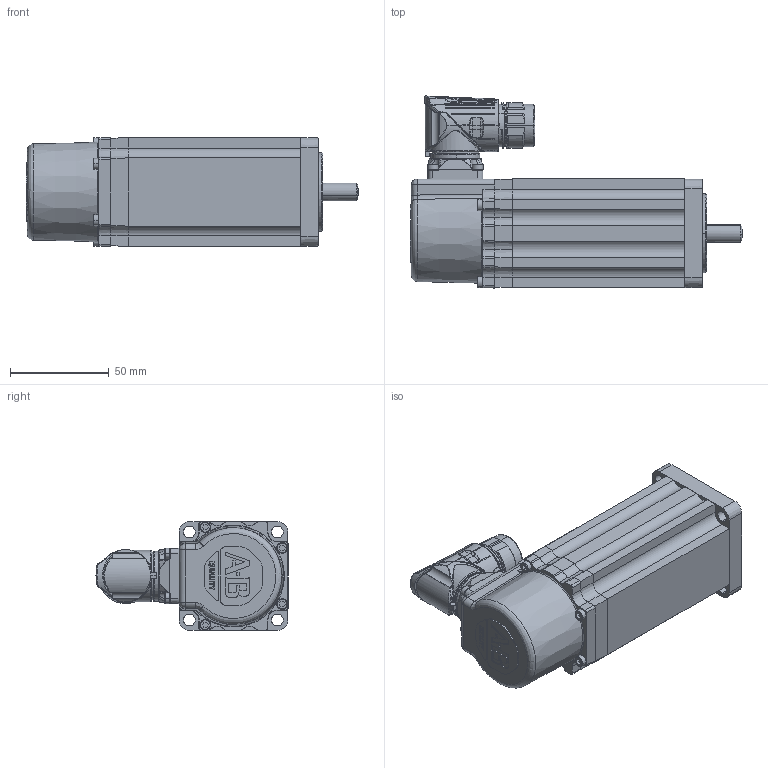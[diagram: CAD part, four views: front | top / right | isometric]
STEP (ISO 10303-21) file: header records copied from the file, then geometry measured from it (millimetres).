
FILE_DESCRIPTION (( 'STEP AP214' ), '1' );
FILE_NAME ('Rockwell Automation-$PARTNUMBER.STEP', '2014-02-18T15:14:26', ( 'Windows User' ), ( '' ), 'SwSTEP 2.0', 'SolidWorks 2014', '' );
FILE_SCHEMA (( 'AUTOMOTIVE_DESIGN' ));
Length unit declared in the file: inch
Products named in the file (23): Rockwell Automation-$PARTNUMBER_Rockwell Automation-VPL-x0632x-xKx2xx_ASM0005_ASM; Rockwell Automation-$PARTNUMBER_Rockwell Automation-VPL-x0632x-xKx2xx_PRT0011; Rockwell Automation-$PARTNUMBER_Rockwell Automation-VPL-x0632x-xKx2xx_PRT0010; Rockwell Automation-$PARTNUMBER_Rockwell Automation-VPL-x0632x-xKx2xx_M23_Connector; Rockwell Automation-$PARTNUMBER_Rockwell Automation-VPL-x0632x-xKx2xx_10000014326-M23_ASM; Rockwell Automation-$PARTNUMBER_Rockwell Automation-VPL-x0632x-xKx2xx_10000014326-1; Rockwell Automation-$PARTNUMBER_Rockwell Automation-VPL-x0632x-xKx2xx_10000014325-1; Rockwell Automation-$PARTNUMBER_Rockwell Automation-VPL-x0632x-xKx2xx_10000540833; Rockwell Automation-$PARTNUMBER_Rockwell Automation-VPL-x0632x-xKx2xx_PRT0004; Rockwell Automation-$PARTNUMBER_Rockwell Automation-VPL-x0632x-xKx2xx_PRT0003; Rockwell Automation-$PARTNUMBER_Rockwell Automation-VPL-x0632x-xKx2xx_vpl-063_asm_0632; Rockwell Automation-$PARTNUMBER_Rockwell Automation-VPL-x0632x-xKx2xx_PRT0002; Rockwell Automation-$PARTNUMBER_Rockwell Automation-VPL-x0632x-xKx2xx_ASM0008_ASM_Shaft_J_2_2; Rockwell Automation-$PARTNUMBER_Rockwell Automation-VPL-x0632x-xKx2xx_Part21_0632; Rockwell Automation-$PARTNUMBER_Rockwell Automation-VPL-x0632x-xKx2xx_PRT0016_1_Shaft_J_2_2; Rockwell Automation-$PARTNUMBER_Rockwell Automation-VPL-x0632x-xKx2xx_ASM0006_ASM; Rockwell Automation-$PARTNUMBER; Rockwell Automation-$PARTNUMBER_Rockwell Automation-VPL-x0632x-xKx2xx_ASM0007_ASM; Rockwell Automation-$PARTNUMBER_Rockwell Automation-VPL-x0632x-xKx2xx_ASM0009_ASM; Rockwell Automation-$PARTNUMBER_Rockwell Automation-VPL-x0632x-xKx2xx_PRT0019; Rockwell Automation-$PARTNUMBER_Rockwell Automation-VPL-x0632x-xKx2xx_PRT0018; Rockwell Automation-$PARTNUMBER_Rockwell Automation-VPL-x0632x-xKx2xx_PRT0015; Rockwell Automation-$PARTNUMBER_Rockwell Automation-VPL-x0632x-xKx2xx_ASM0002_ASM
Assembly tree (33 placements, depth 6):
  Rockwell Automation-$PARTNUMBER
    Rockwell Automation-$PARTNUMBER_Rockwell Automation-VPL-x0632x-xKx2xx_vpl-063_asm_0632
      Rockwell Automation-$PARTNUMBER_Rockwell Automation-VPL-x0632x-xKx2xx_Part21_0632
      Rockwell Automation-$PARTNUMBER_Rockwell Automation-VPL-x0632x-xKx2xx_ASM0002_ASM
        Rockwell Automation-$PARTNUMBER_Rockwell Automation-VPL-x0632x-xKx2xx_PRT0002  x4
        Rockwell Automation-$PARTNUMBER_Rockwell Automation-VPL-x0632x-xKx2xx_PRT0003  x4
        Rockwell Automation-$PARTNUMBER_Rockwell Automation-VPL-x0632x-xKx2xx_PRT0004  x2
        Rockwell Automation-$PARTNUMBER_Rockwell Automation-VPL-x0632x-xKx2xx_M23_Connector
          Rockwell Automation-$PARTNUMBER_Rockwell Automation-VPL-x0632x-xKx2xx_10000540833
          Rockwell Automation-$PARTNUMBER_Rockwell Automation-VPL-x0632x-xKx2xx_10000014325-1
          Rockwell Automation-$PARTNUMBER_Rockwell Automation-VPL-x0632x-xKx2xx_10000014326-M23_ASM
            Rockwell Automation-$PARTNUMBER_Rockwell Automation-VPL-x0632x-xKx2xx_10000014326-1
        Rockwell Automation-$PARTNUMBER_Rockwell Automation-VPL-x0632x-xKx2xx_ASM0005_ASM
          Rockwell Automation-$PARTNUMBER_Rockwell Automation-VPL-x0632x-xKx2xx_PRT0010
          Rockwell Automation-$PARTNUMBER_Rockwell Automation-VPL-x0632x-xKx2xx_PRT0011  x2
      Rockwell Automation-$PARTNUMBER_Rockwell Automation-VPL-x0632x-xKx2xx_ASM0006_ASM
        Rockwell Automation-$PARTNUMBER_Rockwell Automation-VPL-x0632x-xKx2xx_ASM0007_ASM
          Rockwell Automation-$PARTNUMBER_Rockwell Automation-VPL-x0632x-xKx2xx_PRT0015  x4
          Rockwell Automation-$PARTNUMBER_Rockwell Automation-VPL-x0632x-xKx2xx_PRT0018
          Rockwell Automation-$PARTNUMBER_Rockwell Automation-VPL-x0632x-xKx2xx_ASM0009_ASM
            Rockwell Automation-$PARTNUMBER_Rockwell Automation-VPL-x0632x-xKx2xx_PRT0019
      Rockwell Automation-$PARTNUMBER_Rockwell Automation-VPL-x0632x-xKx2xx_ASM0008_ASM_Shaft_J_2_2
        Rockwell Automation-$PARTNUMBER_Rockwell Automation-VPL-x0632x-xKx2xx_PRT0016_1_Shaft_J_2_2
Bounding box: 168.1 x 97.23 x 55.31 mm (x, y, z)
Volume: 194852 mm3; surface area: 126406.1 mm2
Topology: 18 solids, 38 shells, 3061 faces, 8486 edges, 5507 vertices
Faces by surface type: cylinder 990, plane 898, bspline 772, cone 393, torus 8
Entity records: 157453 total; most frequent: CARTESIAN_POINT 86005, ORIENTED_EDGE 14141, DIRECTION 8138, EDGE_CURVE 7089, VERTEX_POINT 4661, B_SPLINE_CURVE_WITH_KNOTS 3702, AXIS2_PLACEMENT_3D 3055, EDGE_LOOP 2684
